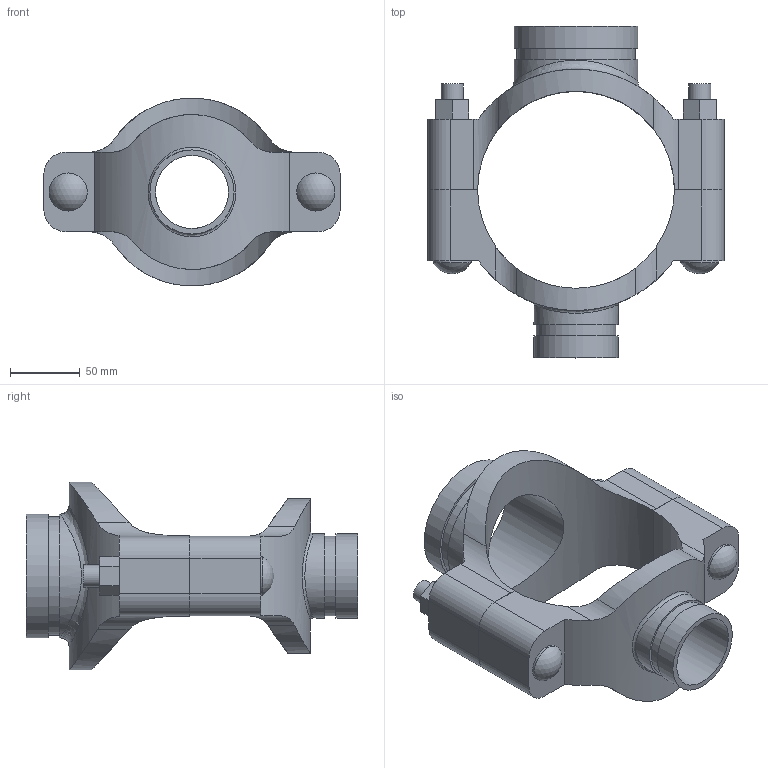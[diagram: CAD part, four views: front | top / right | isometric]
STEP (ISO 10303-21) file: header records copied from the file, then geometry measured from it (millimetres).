
FILE_DESCRIPTION(/* description */ ('VIC MECH-T BRANCH OUTLET CROSS STYLE 920N (GRVD)','CAx-IF Rec.Pracs.---Representation and Presentation of Product Manufacturing Information (PMI)---4.0---2014-10-13'),/* implementation_level */ '2;1');
FILE_NAME(/* name */ 'C:\Users\Vjadhav\AppData\Roaming\Autodesk\ApplicationPlugins\Back Up\Victaulic_IPS_Mechanical-Cross Outlet_Style 920N (OGS)\Victaulic_IPS_Mechanical-Cross Outlet_05.0x03.0x02.0 (125x80x50).stp',/* time_stamp */ '2020-08-06T19:44:29+05:00',/* author */ ('Vjadhav'),/* organization */ ('Victaulic'),/* preprocessor_version */ 'ST-DEVELOPER v17.2',/* originating_system */ 'Autodesk Inventor 2019',/* authorisation */ '');
FILE_SCHEMA (('AP242_MANAGED_MODEL_BASED_3D_ENGINEERING_MIM_LF { 1 0 10303 442 1 1 4 }'));
Length unit declared in the file: inch
Products named in the file (3): 920NG-05.0x03.0x02.0; 920G-05.0x03.0; 920G-05.0x02.0
Assembly tree (2 placements, depth 2):
  920NG-05.0x03.0x02.0
    920G-05.0x03.0
    920G-05.0x02.0
Bounding box: 212.85 x 238.25 x 134.7 mm (x, y, z)
Volume: 862462.3 mm3; surface area: 172229.3 mm2
Topology: 2 solids, 2 shells, 104 faces, 262 edges, 178 vertices
Faces by surface type: plane 54, cylinder 46, sphere 2, bspline 2
Full cylindrical faces by diameter (mm): 15.875 x4, 27.381 x2, 52.387 x1, 57.15 x1, 60.325 x2, 77.787 x1, 84.938 x1, 88.9 x2
Entity records: 4153 total; most frequent: CARTESIAN_POINT 1380, DIRECTION 532, ORIENTED_EDGE 524, EDGE_CURVE 262, AXIS2_PLACEMENT_3D 193, VERTEX_POINT 178, LINE 146, VECTOR 146
